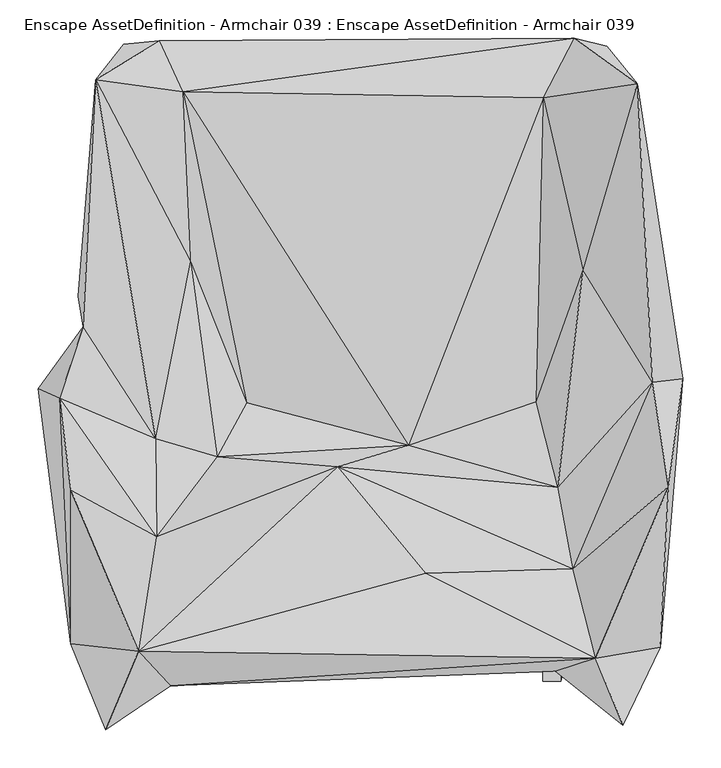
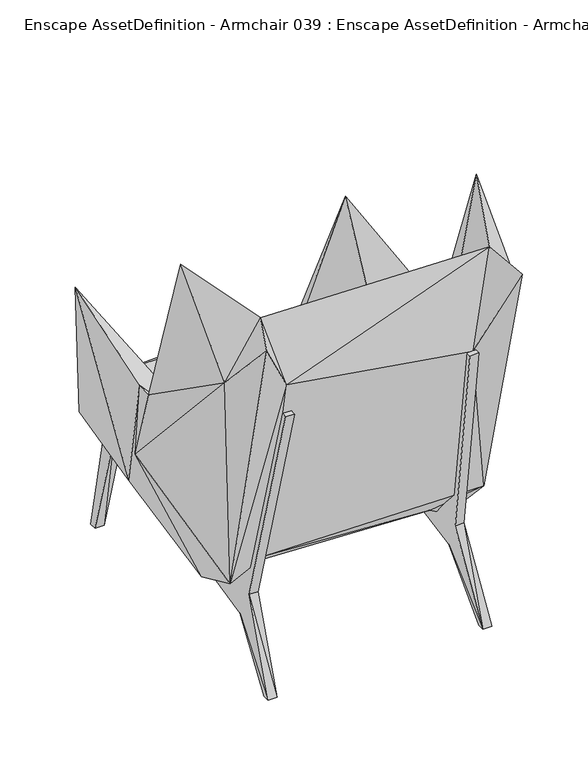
"""IFC4 building model written with IfcOpenShell, lengths in millimetres: geographic element geometry, Enscape AssetDefinition - Armchair 039 : Enscape AssetDefinition - Armchair 039."""

import ifcopenshell
import ifcopenshell.guid

model = None  # the IFC model being written
_history = None  # IfcOwnerHistory: only IFC2X3 demands one
_inside = {}  # id of a spatial element -> (the spatial element, [elements in it])
_under = {}  # id of a project, library or spatial element -> (it, [spatial elements below it])
_declared = {}  # id of a project -> (the project, [libraries it declares])
_typed = {}  # id of a type object -> (the type object, [elements of that type])
_made_of = {}  # id of a material, layer set ... -> (it, [elements and type objects made of it])


def new_model(schema):
    """Start an empty IFC model of exactly this schema.

    Asked for "IFC4X3", IfcOpenShell would pick the latest addendum, in which some entities
    have other attributes; the version numbers below select the first issue.
    IFC2X3 requires an IfcOwnerHistory on every rooted entity: one is made here for all.
    """
    global model, _history
    if schema == "IFC4X3":
        model = ifcopenshell.file(schema_version=(4, 3, 0, 0))
    else:
        model = ifcopenshell.file(schema=schema)
    _inside.clear()
    _under.clear()
    _declared.clear()
    _typed.clear()
    _made_of.clear()
    _history = None
    if model.schema == "IFC2X3":
        org = make("IfcOrganization", Name="unknown")
        user = make(
            "IfcPersonAndOrganization",
            ThePerson=make("IfcPerson", FamilyName="unknown"),
            TheOrganization=org,
        )
        app = make(
            "IfcApplication",
            ApplicationDeveloper=org,
            Version="unknown",
            ApplicationFullName="unknown",
            ApplicationIdentifier="unknown",
        )
        _history = make(
            "IfcOwnerHistory",
            OwningUser=user,
            OwningApplication=app,
            ChangeAction="ADDED",
            CreationDate=0,
        )
    return model


def make(cls, **values):
    """One entity of the class cls with the attributes given. An attribute that is None is left unset."""
    return model.create_entity(
        cls, **{name: value for name, value in values.items() if value is not None}
    )


def rooted(cls, **values):
    """An entity with a GlobalId (a new one), such as an element, a storey or a relation."""
    return make(cls, GlobalId=ifcopenshell.guid.new(), OwnerHistory=_history, **values)


def si_unit(unit_type, name, prefix=None):
    """IfcSIUnit, for example si_unit("LENGTHUNIT", "METRE", prefix="MILLI")."""
    return make("IfcSIUnit", UnitType=unit_type, Prefix=prefix, Name=name)


def assignment(units):
    """IfcUnitAssignment: the units of a project."""
    return None if units is None else make("IfcUnitAssignment", Units=units)


def point(xyz):
    """IfcCartesianPoint."""
    return None if xyz is None else make("IfcCartesianPoint", Coordinates=xyz)


def direction(xyz):
    """IfcDirection."""
    return None if xyz is None else make("IfcDirection", DirectionRatios=xyz)


def frame(location, z_axis=None, x_axis=None):
    """IfcAxis2Placement3D, a coordinate frame: its origin and axes. An axis left out is left unset."""
    return make(
        "IfcAxis2Placement3D",
        Location=point(location),
        Axis=direction(z_axis),
        RefDirection=direction(x_axis),
    )


def origin():
    """The frame at (0, 0, 0) with its axes left unset."""
    return frame((0.0, 0.0, 0.0))


def place(relative_to, where):
    """IfcLocalPlacement: puts the frame where relative to a parent placement (None: the world)."""
    return make(
        "IfcLocalPlacement", PlacementRelTo=relative_to, RelativePlacement=where
    )


def context(
    kind, dimensions, precision=None, world=None, true_north=None, identifier=None
):
    """IfcGeometricRepresentationContext, for example the 3D "Model" context."""
    return make(
        "IfcGeometricRepresentationContext",
        ContextIdentifier=identifier,
        ContextType=kind,
        CoordinateSpaceDimension=dimensions,
        Precision=precision,
        WorldCoordinateSystem=world,
        TrueNorth=true_north,
    )


def project(units=None, contexts=None):
    """IfcProject with its units and contexts."""
    return rooted(
        "IfcProject",
        Name="project",
        RepresentationContexts=contexts,
        UnitsInContext=assignment(units),
    )


def spatial(cls, under=None, at=None, **own):
    """A site, building, storey or space (cls), placed at a placement, below another one or the project."""
    s = rooted(cls, ObjectPlacement=at, **own)
    if under is not None:
        _under.setdefault(under.id(), (under, []))[1].append(s)
    return s


def point_list(points):
    """IfcCartesianPointList2D or 3D."""
    cls = (
        "IfcCartesianPointList2D" if len(points[0]) == 2 else "IfcCartesianPointList3D"
    )
    return make(cls, CoordList=points)


def triangles(points, corners, closed=None, point_numbers=None):
    """IfcTriangulatedFaceSet: each triangle names its three corners, points numbered from 1."""
    return make(
        "IfcTriangulatedFaceSet",
        Coordinates=point_list(points),
        Closed=closed,
        CoordIndex=corners,
        PnIndex=point_numbers,
    )


def shape(context_of_items, identifier, shape_type, items):
    """IfcShapeRepresentation: the items that make up one representation, for example the "Body"."""
    return make(
        "IfcShapeRepresentation",
        ContextOfItems=context_of_items,
        RepresentationIdentifier=identifier,
        RepresentationType=shape_type,
        Items=items,
    )


def source(mapping_origin, context_of_items, identifier, shape_type, items):
    """IfcRepresentationMap: a shape defined once, which mapped items show again and again."""
    return make(
        "IfcRepresentationMap",
        MappingOrigin=mapping_origin,
        MappedRepresentation=shape(context_of_items, identifier, shape_type, items),
    )


def transform(
    local_origin,
    x_axis=None,
    y_axis=None,
    z_axis=None,
    scale=None,
    scale2=None,
    scale3=None,
    uniform=True,
):
    """IfcCartesianTransformationOperator3D, or its non-uniform kind. x_axis, y_axis, z_axis: its Axis1, 2, 3."""
    if uniform:
        return make(
            "IfcCartesianTransformationOperator3D",
            Axis1=direction(x_axis),
            Axis2=direction(y_axis),
            LocalOrigin=point(local_origin),
            Scale=scale,
            Axis3=direction(z_axis),
        )
    return make(
        "IfcCartesianTransformationOperator3DnonUniform",
        Axis1=direction(x_axis),
        Axis2=direction(y_axis),
        LocalOrigin=point(local_origin),
        Scale=scale,
        Axis3=direction(z_axis),
        Scale2=scale2,
        Scale3=scale3,
    )


def mapped(mapping_source, mapping_target):
    """IfcMappedItem: shows the shape of a source again, moved by a transform."""
    return make(
        "IfcMappedItem", MappingSource=mapping_source, MappingTarget=mapping_target
    )


def made_of(thing, what):
    """Note that an element or type object is made of a material, layer set ...; save() writes the relation."""
    if what is not None:
        _made_of.setdefault(what.id(), (what, []))[1].append(thing)
    return thing


def element(
    cls,
    number,
    at=None,
    inside=None,
    cuts=None,
    type_object=None,
    material=None,
    context=None,
    identifier="Body",
    shape_type=None,
    held_by="IfcProductDefinitionShape",
    body=None,
    shapes=None,
    **own,
):
    """One element of the class cls, such as IfcWall. Its Tag is "e" and its number.

    at: its placement. inside: the storey or other place that contains it. cuts: it is an
    opening in that element (IfcRelVoidsElement). A single representation is given by context,
    identifier, shape_type and body (its items); several are given by shapes. held_by: the class
    of the entity that holds the representations. save() writes the other relations.
    """
    e = rooted(cls, Tag="e%d" % number, ObjectPlacement=at, **own)
    if body is not None:
        shapes = [shape(context, identifier, shape_type, body)]
    if shapes is not None:
        e.Representation = make(held_by, Representations=shapes)
    if inside is not None:
        _inside.setdefault(inside.id(), (inside, []))[1].append(e)
    if cuts is not None:
        rooted(
            "IfcRelVoidsElement", RelatingBuildingElement=cuts, RelatedOpeningElement=e
        )
    if type_object is not None:
        _typed.setdefault(type_object.id(), (type_object, []))[1].append(e)
    return made_of(e, material)


def aggregate(whole, parts):
    """IfcRelAggregates: a whole, such as a stair, and the parts it consists of."""
    return rooted("IfcRelAggregates", RelatingObject=whole, RelatedObjects=parts)


def save(model, path):
    """Write the relations noted so far, then the file.

    IfcRelAggregates (storeys below a building ...), IfcRelContainedInSpatialStructure (elements
    in a storey), IfcRelDefinesByType, IfcRelAssociatesMaterial and IfcRelDeclares: one each for
    every whole, place, type object, material and project.
    """
    for whole, parts in _under.values():
        aggregate(whole, parts)
    for where, things in _inside.values():
        rooted(
            "IfcRelContainedInSpatialStructure",
            RelatedElements=things,
            RelatingStructure=where,
        )
    for kind, things in _typed.values():
        rooted("IfcRelDefinesByType", RelatedObjects=things, RelatingType=kind)
    for what, things in _made_of.values():
        rooted("IfcRelAssociatesMaterial", RelatedObjects=things, RelatingMaterial=what)
    for by, libraries in _declared.values():
        rooted("IfcRelDeclares", RelatingContext=by, RelatedDefinitions=libraries)
    model.write(path)


def enscape_assetdefinition_armchair_039_enscape_assetdefinition_a928cae4(model_context):
    return source(origin(), model_context, "Body", "Tessellation", [
        triangles([(264.4430157, -253.3429846, 153.4699928), (231.7820005, -382.9039899, 784.0360096), (255.7140063, 372.3180081, 321.9829991), (261.1530094, -163.1380074, 216.9920058), (255.1499964, -382.9039899, 785.2470549), (255.275007, -404.723988, 782.8450212), (260.6660115, -287.8440037, 226.3779881), (231.9059937, -404.723988, 781.633976), (295.2240038, -395.0100097, 0.0), (284.0349884, -287.8440037, 227.5879978), (271.856008, -395.0100097, 0.0), (271.8299921, -376.3999901, 0.0), (295.197988, -376.3999901, 0.0), (287.8119926, -253.3429846, 154.6800025), (284.5210052, -163.1380074, 218.2029965), (281.6109903, 336.9059981, 274.3819984), (295.4800202, 416.4730165, 0.0), (295.4800202, 397.1090095, 0.0), (279.0830196, 372.3180081, 323.1940081), (272.1120061, 397.1090095, 0.0), (272.1120061, 416.4730165, 0.0), (258.2429944, 336.9059981, 273.1710076), (-271.8299921, -376.3999901, 0.0), (-264.4430157, -253.3429846, 153.4699928), (-272.1120061, 397.1090095, 0.0), (-258.2429944, 336.9059981, 273.1710076), (-272.1120061, 416.4730165, 0.0), (-295.4800202, 416.4730165, 0.0), (-295.4800202, 397.1090095, 0.0), (-255.7140063, 372.3180081, 321.9829991), (-279.0830196, 372.3180081, 323.1940081), (-284.5210052, -163.1380074, 218.2029965), (-281.6109903, 336.9059981, 274.3819984), (-284.0349884, -287.8440037, 227.5879978), (-255.1499964, -382.9039899, 785.2470549), (-261.1530094, -163.1380074, 216.9920058), (-231.9059937, -404.723988, 781.633976), (-255.275007, -404.723988, 782.8450212), (-231.7820005, -382.9039899, 784.0360096), (-260.6660115, -287.8440037, 226.3779881), (-287.8119926, -253.3429846, 154.6800025), (-295.197988, -376.3999901, 0.0), (-295.2240038, -395.0100097, 0.0), (-271.856008, -395.0100097, 0.0), (-378.1099874, 100.3139987, 343.1600132), (-318.1549988, -129.6769956, 191.3859924), (-430.5809853, -21.0249998, 506.9839889), (-371.6360003, 60.7570019, 629.943017), (-402.4719815, -33.1010001, 670.8740215), (-276.5519968, -86.1340048, 547.8829823), (-355.2899777, 384.4430311, 700.9959475), (-318.3529881, 430.779992, 313.3429742), (265.0929942, 166.6460054, 269.2939914), (-271.2750114, 435.234989, 382.3080234), (-276.5680023, 110.3119985, 259.8769971), (-244.0139937, -290.3530076, 322.5690099), (-233.743, -193.5130065, 236.7909971), (-256.5819948, -410.5780274, 877.1000238), (234.6460154, -217.8030028, 237.0509922), (415.2309774, -7.6029999, 507.2289594), (333.8569837, -291.4429846, 316.3490044), (385.6679927, -359.6740125, 893.8279999), (336.8239901, -462.3500127, 1008.6379978), (248.1880122, -391.2619826, 782.357987), (300.8979853, -374.0709898, 1045.2259535), (396.5939973, -149.5829935, 1077.0360031), (375.2599797, -12.2390002, 632.6060085), (-37.7650005, -123.0480035, 661.9030575), (270.9999919, -257.0959896, 819.7440044), (77.6000054, -262.5850077, 946.1950069), (251.2249998, -150.2860029, 549.4599936), (222.7870009, -37.8950025, 379.0040099), (284.1440115, 135.2089981, 575.7899998), (355.814001, 378.9859878, 709.5479691), (232.2310102, 360.7699848, 436.4209994), (55.148001, -94.8829984, 398.7230098), (-240.5279965, 368.7569973, 438.7650061), (272.9800128, 438.8570063, 397.6069805), (368.6830193, 89.2520013, 296.2000162), (305.4809904, -175.0230014, 176.8190037), (315.6280091, 428.0619893, 311.9849902), (-157.2269946, -39.1010018, 369.8849808), (-230.2639973, 145.9789984, 397.3740005), (-195.6870017, -109.9840025, 419.450015), (-275.3300147, -215.0169991, 693.791954), (-387.5079967, -154.222, 1102.9479389), (-387.5300157, -355.0400293, 894.5580425), (-341.921971, -468.0730282, 1036.3069485), (-298.8489824, -365.1700069, 1050.7839718), (-330.7290133, -282.1820128, 269.005001)], [[90, 58, 88], [46, 90, 47], [87, 90, 88], [47, 90, 87], [58, 89, 88], [87, 88, 89], [86, 87, 89], [49, 87, 86], [49, 47, 87], [85, 86, 89], [85, 49, 86], [85, 50, 49], [84, 50, 85], [83, 50, 84], [82, 83, 84], [82, 77, 83], [53, 78, 81], [53, 81, 79], [80, 53, 79], [79, 60, 80], [60, 79, 74], [74, 81, 78], [79, 81, 74], [78, 75, 74], [77, 75, 78], [82, 84, 76], [82, 76, 77], [77, 76, 75], [76, 72, 75], [75, 72, 73], [75, 73, 74], [74, 67, 60], [74, 73, 67], [73, 71, 67], [72, 71, 73], [71, 72, 76], [71, 76, 68], [76, 84, 68], [68, 85, 89], [84, 85, 68], [68, 89, 70], [71, 68, 69], [71, 69, 67], [69, 68, 70], [67, 66, 60], [67, 69, 66], [89, 65, 70], [58, 65, 89], [69, 65, 66], [69, 70, 65], [60, 66, 62], [62, 66, 65], [62, 65, 63], [64, 63, 65], [64, 65, 58], [61, 62, 63], [61, 63, 64], [61, 60, 62], [80, 60, 61], [80, 61, 59], [53, 80, 59], [56, 59, 61], [56, 61, 64], [56, 64, 58], [90, 56, 58], [56, 90, 57], [90, 46, 57], [57, 53, 59], [56, 57, 59], [53, 57, 55], [57, 46, 55], [53, 55, 54], [77, 78, 54], [53, 54, 78], [46, 52, 55], [55, 52, 54], [54, 51, 77], [83, 51, 50], [83, 77, 51], [54, 52, 51], [50, 51, 48], [49, 50, 48], [48, 47, 49], [46, 47, 48], [45, 48, 51], [52, 45, 51], [52, 46, 45], [48, 45, 46], [44, 42, 23], [43, 42, 44], [42, 41, 23], [42, 43, 41], [43, 44, 34], [43, 34, 41], [34, 40, 38], [38, 40, 37], [34, 44, 40], [39, 37, 40], [38, 37, 35], [38, 35, 34], [35, 37, 39], [36, 39, 40], [36, 35, 39], [32, 35, 36], [35, 32, 34], [34, 32, 41], [33, 41, 32], [28, 29, 33], [32, 36, 31], [31, 33, 32], [31, 28, 33], [31, 36, 30], [28, 31, 27], [27, 31, 30], [29, 25, 33], [29, 28, 25], [25, 28, 27], [30, 36, 26], [25, 27, 26], [27, 30, 26], [33, 25, 26], [41, 33, 24], [44, 24, 40], [26, 36, 24], [23, 24, 44], [23, 41, 24], [24, 33, 26], [40, 24, 36], [3, 21, 22], [21, 20, 22], [18, 20, 17], [17, 20, 21], [17, 21, 19], [19, 21, 3], [19, 3, 15], [22, 20, 16], [19, 15, 16], [18, 17, 16], [17, 19, 16], [16, 20, 18], [16, 15, 14], [14, 22, 16], [1, 22, 14], [14, 12, 1], [13, 12, 14], [13, 14, 9], [9, 11, 13], [12, 11, 1], [11, 7, 1], [13, 11, 12], [7, 11, 10], [9, 14, 10], [10, 11, 9], [10, 14, 15], [6, 8, 10], [10, 8, 7], [15, 5, 10], [5, 6, 10], [5, 8, 6], [2, 8, 5], [8, 2, 7], [15, 4, 5], [22, 1, 4], [3, 22, 4], [2, 4, 7], [15, 3, 4], [5, 4, 2], [7, 4, 1]]),
    ])


if __name__ == "__main__":
    model = new_model("IFC4")
    model_context = context("Model", 3, world=origin())
    ifc_project = project(units=[si_unit("LENGTHUNIT", "METRE", prefix="MILLI")], contexts=[model_context])
    site = spatial("IfcSite", under=ifc_project)
    building = spatial("IfcBuilding", under=site)
    placement = place(None, origin())
    enscape_assetdefinition_armchair_039_enscape_assetdefinition_shape = enscape_assetdefinition_armchair_039_enscape_assetdefinition_a928cae4(model_context)
    element("IfcGeographicElement", 1, ObjectType="Enscape AssetDefinition - Armchair 039 : Enscape AssetDefinition - Armchair 039", at=placement, inside=building, context=model_context, shape_type="MappedRepresentation", body=[
        mapped(enscape_assetdefinition_armchair_039_enscape_assetdefinition_shape, transform((0.0, 0.0, 0.0), x_axis=(1.0, 0.0, 0.0), y_axis=(0.0, 1.0, 0.0), z_axis=(0.0, 0.0, 1.0))),
    ])
    save(model, "model.ifc")
